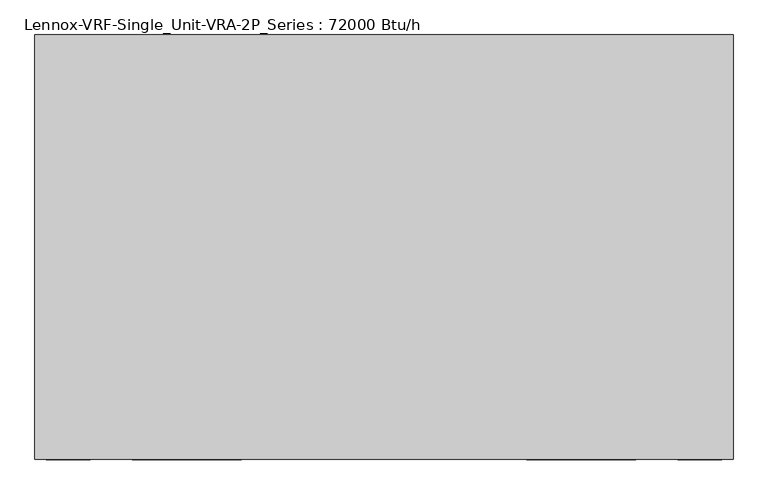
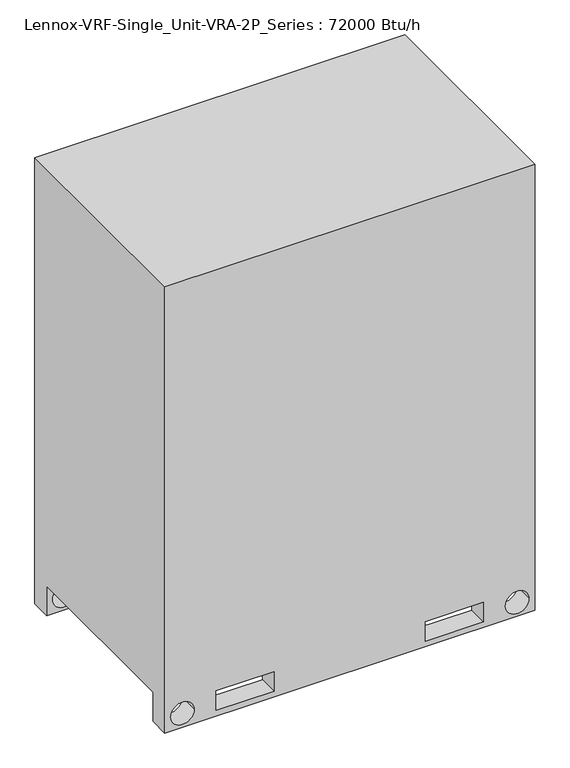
"""IFC4 building model written with IfcOpenShell, lengths in millimetres: proxy geometry, Lennox-VRF-Single_Unit-VRA-2P_Series : 72000 Btu/h."""

import ifcopenshell
import ifcopenshell.guid

model = None  # the IFC model being written
_history = None  # IfcOwnerHistory: only IFC2X3 demands one
_inside = {}  # id of a spatial element -> (the spatial element, [elements in it])
_under = {}  # id of a project, library or spatial element -> (it, [spatial elements below it])
_declared = {}  # id of a project -> (the project, [libraries it declares])
_typed = {}  # id of a type object -> (the type object, [elements of that type])
_made_of = {}  # id of a material, layer set ... -> (it, [elements and type objects made of it])


def new_model(schema):
    """Start an empty IFC model of exactly this schema.

    Asked for "IFC4X3", IfcOpenShell would pick the latest addendum, in which some entities
    have other attributes; the version numbers below select the first issue.
    IFC2X3 requires an IfcOwnerHistory on every rooted entity: one is made here for all.
    """
    global model, _history
    if schema == "IFC4X3":
        model = ifcopenshell.file(schema_version=(4, 3, 0, 0))
    else:
        model = ifcopenshell.file(schema=schema)
    _inside.clear()
    _under.clear()
    _declared.clear()
    _typed.clear()
    _made_of.clear()
    _history = None
    if model.schema == "IFC2X3":
        org = make("IfcOrganization", Name="unknown")
        user = make(
            "IfcPersonAndOrganization",
            ThePerson=make("IfcPerson", FamilyName="unknown"),
            TheOrganization=org,
        )
        app = make(
            "IfcApplication",
            ApplicationDeveloper=org,
            Version="unknown",
            ApplicationFullName="unknown",
            ApplicationIdentifier="unknown",
        )
        _history = make(
            "IfcOwnerHistory",
            OwningUser=user,
            OwningApplication=app,
            ChangeAction="ADDED",
            CreationDate=0,
        )
    return model


def make(cls, **values):
    """One entity of the class cls with the attributes given. An attribute that is None is left unset."""
    return model.create_entity(
        cls, **{name: value for name, value in values.items() if value is not None}
    )


def rooted(cls, **values):
    """An entity with a GlobalId (a new one), such as an element, a storey or a relation."""
    return make(cls, GlobalId=ifcopenshell.guid.new(), OwnerHistory=_history, **values)


def si_unit(unit_type, name, prefix=None):
    """IfcSIUnit, for example si_unit("LENGTHUNIT", "METRE", prefix="MILLI")."""
    return make("IfcSIUnit", UnitType=unit_type, Prefix=prefix, Name=name)


def assignment(units):
    """IfcUnitAssignment: the units of a project."""
    return None if units is None else make("IfcUnitAssignment", Units=units)


def point(xyz):
    """IfcCartesianPoint."""
    return None if xyz is None else make("IfcCartesianPoint", Coordinates=xyz)


def direction(xyz):
    """IfcDirection."""
    return None if xyz is None else make("IfcDirection", DirectionRatios=xyz)


def frame(location, z_axis=None, x_axis=None):
    """IfcAxis2Placement3D, a coordinate frame: its origin and axes. An axis left out is left unset."""
    return make(
        "IfcAxis2Placement3D",
        Location=point(location),
        Axis=direction(z_axis),
        RefDirection=direction(x_axis),
    )


def origin():
    """The frame at (0, 0, 0) with its axes left unset."""
    return frame((0.0, 0.0, 0.0))


def place(relative_to, where):
    """IfcLocalPlacement: puts the frame where relative to a parent placement (None: the world)."""
    return make(
        "IfcLocalPlacement", PlacementRelTo=relative_to, RelativePlacement=where
    )


def context(
    kind, dimensions, precision=None, world=None, true_north=None, identifier=None
):
    """IfcGeometricRepresentationContext, for example the 3D "Model" context."""
    return make(
        "IfcGeometricRepresentationContext",
        ContextIdentifier=identifier,
        ContextType=kind,
        CoordinateSpaceDimension=dimensions,
        Precision=precision,
        WorldCoordinateSystem=world,
        TrueNorth=true_north,
    )


def project(units=None, contexts=None):
    """IfcProject with its units and contexts."""
    return rooted(
        "IfcProject",
        Name="project",
        RepresentationContexts=contexts,
        UnitsInContext=assignment(units),
    )


def spatial(cls, under=None, at=None, **own):
    """A site, building, storey or space (cls), placed at a placement, below another one or the project."""
    s = rooted(cls, ObjectPlacement=at, **own)
    if under is not None:
        _under.setdefault(under.id(), (under, []))[1].append(s)
    return s


def polyline(points):
    """IfcPolyline through the points."""
    return make("IfcPolyline", Points=[point(p) for p in points])


def circle_curve(where, radius):
    """IfcCircle in the frame where."""
    return make("IfcCircle", Position=where, Radius=radius)


def shape(context_of_items, identifier, shape_type, items):
    """IfcShapeRepresentation: the items that make up one representation, for example the "Body"."""
    return make(
        "IfcShapeRepresentation",
        ContextOfItems=context_of_items,
        RepresentationIdentifier=identifier,
        RepresentationType=shape_type,
        Items=items,
    )


def source(mapping_origin, context_of_items, identifier, shape_type, items):
    """IfcRepresentationMap: a shape defined once, which mapped items show again and again."""
    return make(
        "IfcRepresentationMap",
        MappingOrigin=mapping_origin,
        MappedRepresentation=shape(context_of_items, identifier, shape_type, items),
    )


def transform(
    local_origin,
    x_axis=None,
    y_axis=None,
    z_axis=None,
    scale=None,
    scale2=None,
    scale3=None,
    uniform=True,
):
    """IfcCartesianTransformationOperator3D, or its non-uniform kind. x_axis, y_axis, z_axis: its Axis1, 2, 3."""
    if uniform:
        return make(
            "IfcCartesianTransformationOperator3D",
            Axis1=direction(x_axis),
            Axis2=direction(y_axis),
            LocalOrigin=point(local_origin),
            Scale=scale,
            Axis3=direction(z_axis),
        )
    return make(
        "IfcCartesianTransformationOperator3DnonUniform",
        Axis1=direction(x_axis),
        Axis2=direction(y_axis),
        LocalOrigin=point(local_origin),
        Scale=scale,
        Axis3=direction(z_axis),
        Scale2=scale2,
        Scale3=scale3,
    )


def mapped(mapping_source, mapping_target):
    """IfcMappedItem: shows the shape of a source again, moved by a transform."""
    return make(
        "IfcMappedItem", MappingSource=mapping_source, MappingTarget=mapping_target
    )


def made_of(thing, what):
    """Note that an element or type object is made of a material, layer set ...; save() writes the relation."""
    if what is not None:
        _made_of.setdefault(what.id(), (what, []))[1].append(thing)
    return thing


def element(
    cls,
    number,
    at=None,
    inside=None,
    cuts=None,
    type_object=None,
    material=None,
    context=None,
    identifier="Body",
    shape_type=None,
    held_by="IfcProductDefinitionShape",
    body=None,
    shapes=None,
    **own,
):
    """One element of the class cls, such as IfcWall. Its Tag is "e" and its number.

    at: its placement. inside: the storey or other place that contains it. cuts: it is an
    opening in that element (IfcRelVoidsElement). A single representation is given by context,
    identifier, shape_type and body (its items); several are given by shapes. held_by: the class
    of the entity that holds the representations. save() writes the other relations.
    """
    e = rooted(cls, Tag="e%d" % number, ObjectPlacement=at, **own)
    if body is not None:
        shapes = [shape(context, identifier, shape_type, body)]
    if shapes is not None:
        e.Representation = make(held_by, Representations=shapes)
    if inside is not None:
        _inside.setdefault(inside.id(), (inside, []))[1].append(e)
    if cuts is not None:
        rooted(
            "IfcRelVoidsElement", RelatingBuildingElement=cuts, RelatedOpeningElement=e
        )
    if type_object is not None:
        _typed.setdefault(type_object.id(), (type_object, []))[1].append(e)
    return made_of(e, material)


def aggregate(whole, parts):
    """IfcRelAggregates: a whole, such as a stair, and the parts it consists of."""
    return rooted("IfcRelAggregates", RelatingObject=whole, RelatedObjects=parts)


def save(model, path):
    """Write the relations noted so far, then the file.

    IfcRelAggregates (storeys below a building ...), IfcRelContainedInSpatialStructure (elements
    in a storey), IfcRelDefinesByType, IfcRelAssociatesMaterial and IfcRelDeclares: one each for
    every whole, place, type object, material and project.
    """
    for whole, parts in _under.values():
        aggregate(whole, parts)
    for where, things in _inside.values():
        rooted(
            "IfcRelContainedInSpatialStructure",
            RelatedElements=things,
            RelatingStructure=where,
        )
    for kind, things in _typed.values():
        rooted("IfcRelDefinesByType", RelatedObjects=things, RelatingType=kind)
    for what, things in _made_of.values():
        rooted("IfcRelAssociatesMaterial", RelatedObjects=things, RelatingMaterial=what)
    for by, libraries in _declared.values():
        rooted("IfcRelDeclares", RelatingContext=by, RelatedDefinitions=libraries)
    model.write(path)


def plane_surface(at):
    """IfcPlane: the flat surface through the origin of the frame at, square to its z axis."""
    return make("IfcPlane", Position=at)


def revolved_surface(curve, axis_point, axis_direction):
    """IfcSurfaceOfRevolution: the curve turned about the line through axis_point along axis_direction."""
    return make(
        "IfcSurfaceOfRevolution",
        SweptCurve=make("IfcArbitraryOpenProfileDef", ProfileType="CURVE", Curve=curve),
        AxisPosition=make("IfcAxis1Placement", Location=point(axis_point), Axis=direction(axis_direction)),
    )


def advanced_brep(points, edges, surfaces, faces):
    """IfcAdvancedBrep: a solid bounded by faces that lie on surfaces and meet in shared edges.

    An edge is (start, end): straight between two places in points (the first is 0);
    or (start, end, curve); or (start, end, curve, False) where it runs against its curve.
    A face is (place in surfaces, loops), or (place, loops, False) where it looks against
    its surface's normal. A loop lists edges by number (the first is 1), with a minus sign
    where the edge is run from its end to its start. The first loop is the outer one.
    """
    corners = [point(p) for p in points]
    vertices = [make("IfcVertexPoint", VertexGeometry=c) for c in corners]
    made = []
    for start, end, *more in edges:
        made.append(
            make(
                "IfcEdgeCurve",
                EdgeStart=vertices[start],
                EdgeEnd=vertices[end],
                EdgeGeometry=more[0] if more else make("IfcPolyline", Points=[corners[start], corners[end]]),
                SameSense=more[1] if len(more) > 1 else True,
            )
        )
    hull = []
    for where, loops, *sense in faces:
        bounds = []
        for j, loop in enumerate(loops):
            ring = [make("IfcOrientedEdge", EdgeElement=made[abs(k) - 1], Orientation=k > 0) for k in loop]
            bounds.append(
                make(
                    "IfcFaceOuterBound" if j == 0 else "IfcFaceBound",
                    Bound=make("IfcEdgeLoop", EdgeList=ring),
                    Orientation=True,
                )
            )
        hull.append(make("IfcAdvancedFace", Bounds=bounds, FaceSurface=surfaces[where], SameSense=sense[0] if sense else True))
    return make("IfcAdvancedBrep", Outer=make("IfcClosedShell", CfsFaces=hull))


def lennox_vrf_single_unit_vra_2p_series_72000_btu_h_c5033c1e(model_context):
    return source(origin(), model_context, "Body", "AdvancedBrep", [
        advanced_brep(
        [(629.0, -313.5, 105.0), (-629.0, -313.5, 105.0), (-629.0, 313.5, 105.0), (629.0, 313.5, 105.0), (629.0, -313.5, 0.0), (-629.0, -313.5, 0.0), (-257.0, -313.5, 90.0), (-454.0, -313.5, 90.0), (-454.0, -313.5, 20.0), (-257.0, -313.5, 20.0), (-609.0, -313.5, 50.0), (-529.0, -313.5, 50.0), (529.0, -313.5, 50.0), (609.0, -313.5, 50.0), (454.0, -313.5, 90.0), (257.0, -313.5, 90.0), (257.0, -313.5, 20.0), (454.0, -313.5, 20.0), (-629.0, 313.5, 0.0), (629.0, 313.5, 0.0), (-454.0, 313.5, 90.0), (-257.0, 313.5, 90.0), (-257.0, 313.5, 20.0), (-454.0, 313.5, 20.0), (-529.0, 313.5, 50.0), (-609.0, 313.5, 50.0), (609.0, 313.5, 50.0), (529.0, 313.5, 50.0), (257.0, 313.5, 90.0), (454.0, 313.5, 90.0), (454.0, 313.5, 20.0), (257.0, 313.5, 20.0), (629.0, 382.5, 1603.0), (-629.0, 382.5, 1603.0), (-629.0, -382.5, 1603.0), (629.0, -382.5, 1603.0), (629.0, -382.5, 0.0), (-629.0, -382.5, 0.0), (-629.0, 382.5, 0.0), (629.0, 382.5, 0.0), (-257.0, 382.5, 90.0), (-454.0, 382.5, 90.0), (-454.0, 382.5, 20.0), (-257.0, 382.5, 20.0), (-609.0, 382.5, 50.0), (-529.0, 382.5, 50.0), (529.0, 382.5, 50.0), (609.0, 382.5, 50.0), (454.0, 382.5, 90.0), (257.0, 382.5, 90.0), (257.0, 382.5, 20.0), (454.0, 382.5, 20.0), (-454.0, -382.5, 90.0), (-257.0, -382.5, 90.0), (-257.0, -382.5, 20.0), (-454.0, -382.5, 20.0), (-529.0, -382.5, 50.0), (-609.0, -382.5, 50.0), (609.0, -382.5, 50.0), (529.0, -382.5, 50.0), (257.0, -382.5, 90.0), (454.0, -382.5, 90.0), (454.0, -382.5, 20.0), (257.0, -382.5, 20.0)],
        [
            (0, 1),
            (1, 2),
            (2, 3),
            (3, 0),
            (0, 4),
            (4, 5),
            (5, 1),
            (6, 7),
            (7, 8),
            (8, 9),
            (9, 6),
            (10, 11, circle_curve(frame((-569.0, -313.5, 50.0), z_axis=(0.0, -1.0, 0.0), x_axis=(1.0, 0.0, 0.0)), 40.0)),
            (11, 10, circle_curve(frame((-569.0, -313.5, 50.0), z_axis=(0.0, -1.0, 0.0), x_axis=(1.0, 0.0, 0.0)), 40.0)),
            (12, 13, circle_curve(frame((569.0, -313.5, 50.0), z_axis=(0.0, -1.0, 0.0), x_axis=(1.0, 0.0, 0.0)), 40.0)),
            (13, 12, circle_curve(frame((569.0, -313.5, 50.0), z_axis=(0.0, -1.0, 0.0), x_axis=(1.0, 0.0, 0.0)), 40.0)),
            (14, 15),
            (15, 16),
            (16, 17),
            (17, 14),
            (2, 18),
            (18, 19),
            (19, 3),
            (20, 21),
            (21, 22),
            (22, 23),
            (23, 20),
            (24, 25, circle_curve(frame((-569.0, 313.5, 50.0), z_axis=(0.0, 1.0, 0.0), x_axis=(1.0, 0.0, 0.0)), 40.0)),
            (25, 24, circle_curve(frame((-569.0, 313.5, 50.0), z_axis=(0.0, 1.0, 0.0), x_axis=(1.0, 0.0, 0.0)), 40.0)),
            (26, 27, circle_curve(frame((569.0, 313.5, 50.0), z_axis=(0.0, 1.0, 0.0), x_axis=(1.0, 0.0, 0.0)), 40.0)),
            (27, 26, circle_curve(frame((569.0, 313.5, 50.0), z_axis=(0.0, 1.0, 0.0), x_axis=(1.0, 0.0, 0.0)), 40.0)),
            (28, 29),
            (29, 30),
            (30, 31),
            (31, 28),
            (32, 33),
            (33, 34),
            (34, 35),
            (35, 32),
            (36, 37),
            (37, 5),
            (4, 36),
            (38, 39),
            (39, 19),
            (18, 38),
            (32, 39),
            (38, 33),
            (40, 41),
            (41, 42),
            (42, 43),
            (43, 40),
            (44, 45, circle_curve(frame((-569.0, 382.5, 50.0), z_axis=(0.0, -1.0, 0.0), x_axis=(1.0, 0.0, 0.0)), 40.0)),
            (45, 44, circle_curve(frame((-569.0, 382.5, 50.0), z_axis=(0.0, -1.0, 0.0), x_axis=(1.0, 0.0, 0.0)), 40.0)),
            (46, 47, circle_curve(frame((569.0, 382.5, 50.0), z_axis=(0.0, -1.0, 0.0), x_axis=(1.0, 0.0, 0.0)), 40.0)),
            (47, 46, circle_curve(frame((569.0, 382.5, 50.0), z_axis=(0.0, -1.0, 0.0), x_axis=(1.0, 0.0, 0.0)), 40.0)),
            (48, 49),
            (49, 50),
            (50, 51),
            (51, 48),
            (37, 34),
            (36, 35),
            (52, 53),
            (53, 54),
            (54, 55),
            (55, 52),
            (56, 57, circle_curve(frame((-569.0, -382.5, 50.0), z_axis=(0.0, 1.0, 0.0), x_axis=(1.0, 0.0, 0.0)), 40.0)),
            (57, 56, circle_curve(frame((-569.0, -382.5, 50.0), z_axis=(0.0, 1.0, 0.0), x_axis=(1.0, 0.0, 0.0)), 40.0)),
            (58, 59, circle_curve(frame((569.0, -382.5, 50.0), z_axis=(0.0, 1.0, 0.0), x_axis=(1.0, 0.0, 0.0)), 40.0)),
            (59, 58, circle_curve(frame((569.0, -382.5, 50.0), z_axis=(0.0, 1.0, 0.0), x_axis=(1.0, 0.0, 0.0)), 40.0)),
            (60, 61),
            (61, 62),
            (62, 63),
            (63, 60),
            (6, 53),
            (52, 7),
            (40, 21),
            (20, 41),
            (55, 8),
            (23, 42),
            (54, 9),
            (22, 43),
            (10, 57),
            (56, 11),
            (44, 25),
            (24, 45),
            (12, 59),
            (58, 13),
            (46, 27),
            (26, 47),
            (14, 61),
            (60, 15),
            (48, 29),
            (28, 49),
            (63, 16),
            (31, 50),
            (62, 17),
            (30, 51),
        ],
        [
            plane_surface(frame((629.0, 313.5, 105.0), z_axis=(0.0, 0.0, -1.0), x_axis=(-1.0, 0.0, 0.0))),
            plane_surface(frame((629.0, -313.5, 105.0), z_axis=(0.0, 1.0, 0.0), x_axis=(-1.0, 0.0, 0.0))),
            plane_surface(frame((629.0, 313.5, 0.0), z_axis=(0.0, -1.0, 0.0), x_axis=(-1.0, 0.0, 0.0))),
            plane_surface(frame((0.0, 0.0, 1603.0), z_axis=(0.0, 0.0, 1.0), x_axis=(0.0, -1.0, 0.0))),
            plane_surface(frame((0.0, 0.0, 0.0), z_axis=(0.0, 0.0, -1.0), x_axis=(0.0, -1.0, 0.0))),
            plane_surface(frame((629.0, 382.5, 1603.0), z_axis=(0.0, 1.0, 0.0), x_axis=(0.0, 0.0, -1.0))),
            plane_surface(frame((-629.0, 382.5, 1603.0), z_axis=(-1.0, 0.0, 0.0), x_axis=(0.0, 0.0, -1.0))),
            plane_surface(frame((-629.0, -382.5, 1603.0), z_axis=(0.0, -1.0, 0.0), x_axis=(0.0, 0.0, -1.0))),
            plane_surface(frame((629.0, -382.5, 1603.0), z_axis=(1.0, 0.0, 0.0), x_axis=(0.0, 0.0, -1.0))),
            plane_surface(frame((-257.0, -382.5, 90.0), z_axis=(0.0, 0.0, -1.0), x_axis=(0.0, 1.0, 0.0))),
            plane_surface(frame((-454.0, -382.5, 90.0), z_axis=(1.0, 0.0, 0.0), x_axis=(0.0, 1.0, 0.0))),
            plane_surface(frame((-454.0, -382.5, 20.0), z_axis=(0.0, 0.0, 1.0), x_axis=(0.0, 1.0, 0.0))),
            plane_surface(frame((-257.0, -382.5, 20.0), z_axis=(-1.0, 0.0, 0.0), x_axis=(0.0, 1.0, 0.0))),
            revolved_surface(polyline([(-529.0, -382.5, 50.0), (-529.0, -313.5, 50.0)]), (-569.0, 0.0, 50.0), (0.0, -1.0, 0.0)),
            revolved_surface(polyline([(-529.0, 313.5, 50.0), (-529.0, 382.5, 50.0)]), (-569.0, 0.0, 50.0), (0.0, -1.0, 0.0)),
            revolved_surface(polyline([(609.0, -382.5, 50.0), (609.0, -313.5, 50.0)]), (569.0, 0.0, 50.0), (0.0, -1.0, 0.0)),
            revolved_surface(polyline([(609.0, 313.5, 50.0), (609.0, 382.5, 50.0)]), (569.0, 0.0, 50.0), (0.0, -1.0, 0.0)),
            plane_surface(frame((454.0, -382.5, 90.0), z_axis=(0.0, 0.0, -1.0), x_axis=(0.0, 1.0, 0.0))),
            plane_surface(frame((257.0, -382.5, 90.0), z_axis=(1.0, 0.0, 0.0), x_axis=(0.0, 1.0, 0.0))),
            plane_surface(frame((257.0, -382.5, 20.0), z_axis=(0.0, 0.0, 1.0), x_axis=(0.0, 1.0, 0.0))),
            plane_surface(frame((454.0, -382.5, 20.0), z_axis=(-1.0, 0.0, 0.0), x_axis=(0.0, 1.0, 0.0))),
        ],
        [
            (0, [[1, 2, 3, 4]]),
            (1, [[-1, 5, 6, 7], [8, 9, 10, 11], [12, 13], [14, 15], [16, 17, 18, 19]]),
            (2, [[-3, 20, 21, 22], [23, 24, 25, 26], [27, 28], [29, 30], [31, 32, 33, 34]]),
            (3, [[35, 36, 37, 38]]),
            (4, [[39, 40, -6, 41]]),
            (4, [[42, 43, -21, 44]]),
            (5, [[-35, 45, -42, 46], [47, 48, 49, 50], [51, 52], [53, 54], [55, 56, 57, 58]]),
            (6, [[-36, -46, -44, -20, -2, -7, -40, 59]]),
            (7, [[-37, -59, -39, 60], [61, 62, 63, 64], [65, 66], [67, 68], [69, 70, 71, 72]]),
            (8, [[-38, -60, -41, -5, -4, -22, -43, -45]]),
            (9, [[73, -61, 74, -8]]),
            (9, [[75, -23, 76, -47]]),
            (10, [[-74, -64, 77, -9]]),
            (10, [[-76, -26, 78, -48]]),
            (11, [[-77, -63, 79, -10]]),
            (11, [[-78, -25, 80, -49]]),
            (12, [[-73, -11, -79, -62]]),
            (12, [[-75, -50, -80, -24]]),
            (13, [[81, -65, 82, -12]]),
            (14, [[83, -27, 84, -51]]),
            (13, [[-81, -13, -82, -66]]),
            (14, [[-83, -52, -84, -28]]),
            (15, [[85, -67, 86, -14]]),
            (16, [[87, -29, 88, -53]]),
            (15, [[-85, -15, -86, -68]]),
            (16, [[-87, -54, -88, -30]]),
            (17, [[89, -69, 90, -16]]),
            (17, [[91, -31, 92, -55]]),
            (18, [[-90, -72, 93, -17]]),
            (18, [[-92, -34, 94, -56]]),
            (19, [[-93, -71, 95, -18]]),
            (19, [[-94, -33, 96, -57]]),
            (20, [[-89, -19, -95, -70]]),
            (20, [[-91, -58, -96, -32]]),
        ],
    ),
    ])


if __name__ == "__main__":
    model = new_model("IFC4")
    model_context = context("Model", 3, world=origin())
    ifc_project = project(units=[si_unit("LENGTHUNIT", "METRE", prefix="MILLI")], contexts=[model_context])
    site = spatial("IfcSite", under=ifc_project)
    building = spatial("IfcBuilding", under=site)
    placement = place(None, origin())
    lennox_vrf_single_unit_vra_2p_series_72000_btu_h_shape = lennox_vrf_single_unit_vra_2p_series_72000_btu_h_c5033c1e(model_context)
    element("IfcBuildingElementProxy", 1, Name="Lennox-VRF-Single_Unit-VRA-2P_Series : 72000 Btu/h", ObjectType="Lennox-VRF-Single_Unit-VRA-2P_Series : 72000 Btu/h", at=placement, inside=building, context=model_context, shape_type="MappedRepresentation", body=[
        mapped(lennox_vrf_single_unit_vra_2p_series_72000_btu_h_shape, transform((0.0, 0.0, 0.0), x_axis=(1.0, 0.0, 0.0), y_axis=(0.0, 1.0, 0.0), z_axis=(0.0, 0.0, 1.0))),
    ])
    save(model, "model.ifc")
